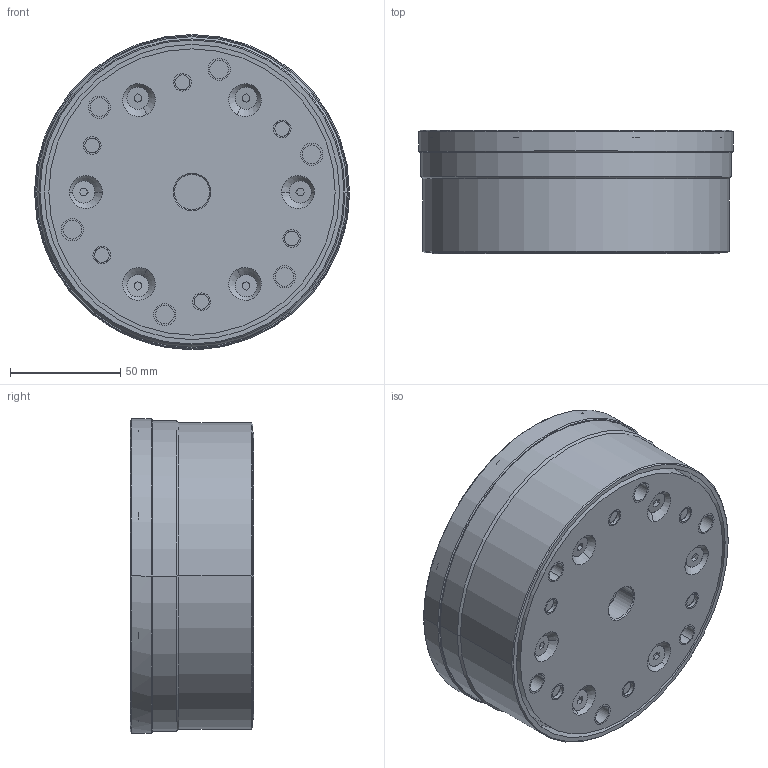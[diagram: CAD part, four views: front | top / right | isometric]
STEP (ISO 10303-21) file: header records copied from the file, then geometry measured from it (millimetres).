
FILE_DESCRIPTION((''),'2;1');
FILE_NAME('BS6-150-130','2018-02-27T',('CSW'),(''),'CREO PARAMETRIC BY PTC INC, 2016260','CREO PARAMETRIC BY PTC INC, 2016260','');
FILE_SCHEMA(('AUTOMOTIVE_DESIGN { 1 0 10303 214 1 1 1 1 }'));
Length unit declared in the file: millimetre
Products named in the file (1): BS6-150-130
Bounding box: 143 x 56 x 143 mm (x, y, z)
Volume: 841307.2 mm3; surface area: 80647.8 mm2
Topology: 1 solids, 65 shells, 605 faces, 1372 edges, 860 vertices
Faces by surface type: cylinder 258, plane 233, cone 98, torus 16
Entity records: 17364 total; most frequent: CARTESIAN_POINT 3326, DIRECTION 3152, ORIENTED_EDGE 2544, EDGE_CURVE 1356, AXIS2_PLACEMENT_3D 1248, VERTEX_POINT 860, EDGE_LOOP 696, VECTOR 656
